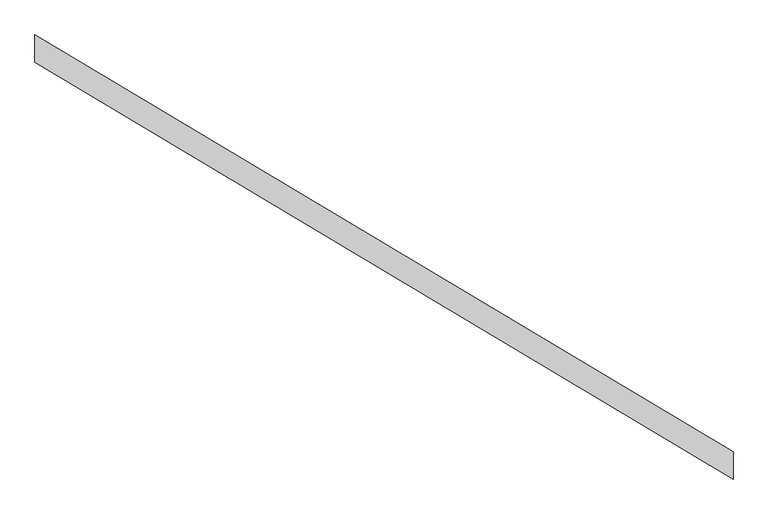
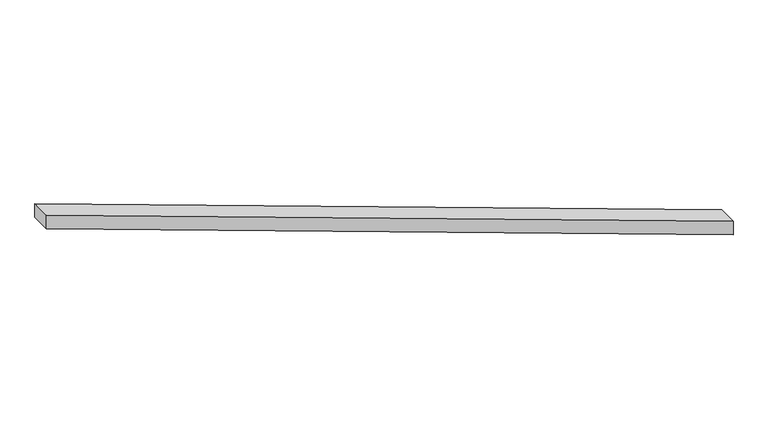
"""IFC4 building model written with IfcOpenShell, lengths in millimetres: proxy geometry, Modelos genéricos 260 : Modelos genéricos 259."""

from ifc_helpers import new_model, si_unit, frame, origin, place, context, project, spatial, polyline, outline, extrude, source, transform, mapped, element, save


def generic_models_be4cb03b(model_context):
    return source(origin(), model_context, "Body", "SweptSolid", [
        extrude(outline(polyline([(-9026.5527533, -2042.9300824), (-9026.5527533, -2182.7450355), (-12616.5527533, -36.1911366), (-12616.5527533, 103.6238165), (-9026.5527533, -2042.9300824)])), frame((0.0, 0.0, 3000.0), z_axis=(0.0, 0.0, 1.0), x_axis=(1.0, 0.0, 0.0)), (0.0, 0.0, 1.0), 100.0),
    ])


if __name__ == "__main__":
    model = new_model("IFC4")
    model_context = context("Model", 3, world=origin())
    ifc_project = project(units=[si_unit("LENGTHUNIT", "METRE", prefix="MILLI")], contexts=[model_context])
    site = spatial("IfcSite", under=ifc_project)
    building = spatial("IfcBuilding", under=site)
    placement = place(None, origin())
    generic_models_shape = generic_models_be4cb03b(model_context)
    element("IfcBuildingElementProxy", 1, Name="Modelos genéricos 260 : Modelos genéricos 259", ObjectType="Modelos genéricos 260 : Modelos genéricos 259", at=placement, inside=building, context=model_context, shape_type="MappedRepresentation", body=[
        mapped(generic_models_shape, transform((0.0, 0.0, 0.0), x_axis=(1.0, 0.0, 0.0), y_axis=(0.0, 1.0, 0.0), z_axis=(0.0, 0.0, 1.0))),
    ])
    save(model, "model.ifc")
